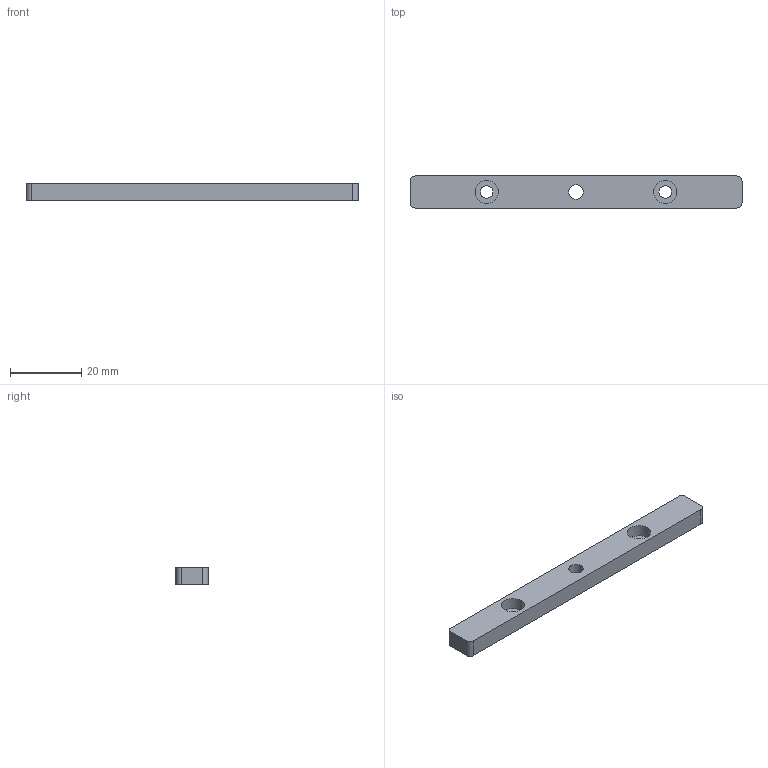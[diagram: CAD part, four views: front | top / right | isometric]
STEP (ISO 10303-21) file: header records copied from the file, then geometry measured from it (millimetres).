
FILE_DESCRIPTION(('STEP AP203'), '1');
FILE_NAME('眐珆1801.01.08.01.202 - 砎鳽鳻', '', ('UNSPECIFIED'), ('UNSPECIFIED'), 'C3D Converter', 'C3D Toolkit', '');
FILE_SCHEMA(('CONFIG_CONTROL_DESIGN'));
Length unit declared in the file: millimetre
Products named in the file (1): ТППФ1801.01.08.01.202
Bounding box: 93 x 9 x 5 mm (x, y, z)
Volume: 3851.4 mm3; surface area: 2852.4 mm2
Topology: 1 solids, 1 shells, 17 faces, 39 edges, 26 vertices
Faces by surface type: cylinder 9, plane 8
Full cylindrical faces by diameter (mm): 3.5 x2, 4 x1, 6.5 x2
Entity records: 654 total; most frequent: DIRECTION 88, CARTESIAN_POINT 78, ORIENTED_EDGE 68, AXIS2_PLACEMENT_3D 36, EDGE_CURVE 34, EDGE_LOOP 30, VERTEX_POINT 26, FACE_BOUND 20
